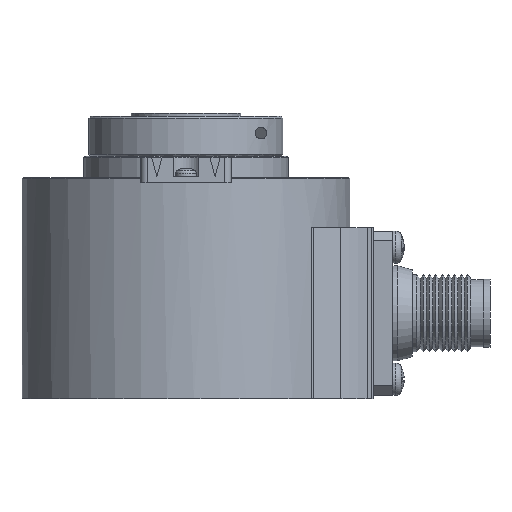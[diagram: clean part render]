
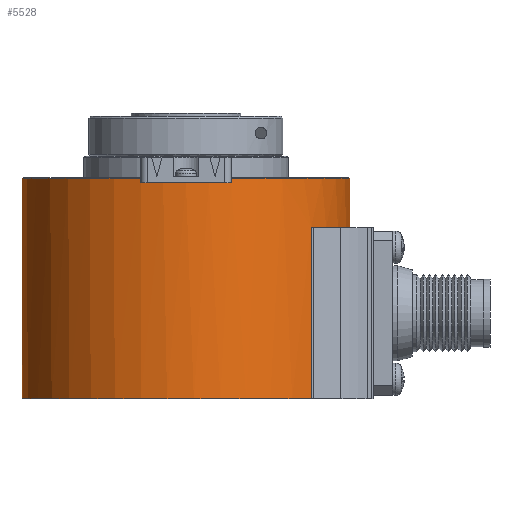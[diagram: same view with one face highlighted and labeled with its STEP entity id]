
A CAD part, left-side view. The second image highlights one B-rep face of the part: STEP entity #5528.
In plain terms, the highlighted cylindrical face has radius 25.4 mm (diameter 50.8 mm), a full revolution.
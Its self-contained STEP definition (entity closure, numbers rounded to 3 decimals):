
#4678=CARTESIAN_POINT('',(-24.415,-7.005,6.9));
#4679=VERTEX_POINT('',#4678);
#4686=CARTESIAN_POINT('',(-24.415,-7.005,7.585));
#4687=VERTEX_POINT('',#4686);
#4688=CARTESIAN_POINT('',(-24.415,-7.005,7.585));
#4689=DIRECTION('',(0.0,0.0,-1.0));
#4690=VECTOR('',#4689,0.685);
#4691=LINE('',#4688,#4690);
#4692=EDGE_CURVE('',#4687,#4679,#4691,.T.);
#4715=CARTESIAN_POINT('',(-24.415,7.005,6.9));
#4716=VERTEX_POINT('',#4715);
#4717=CARTESIAN_POINT('',(-24.415,7.005,7.585));
#4718=VERTEX_POINT('',#4717);
#4719=CARTESIAN_POINT('',(-24.415,7.005,6.9));
#4720=DIRECTION('',(0.0,0.0,1.0));
#4721=VECTOR('',#4720,0.685);
#4722=LINE('',#4719,#4721);
#4723=EDGE_CURVE('',#4716,#4718,#4722,.T.);
#4918=CARTESIAN_POINT('',(0.,0.,7.585));
#4919=DIRECTION('',(0.0,0.0,-1.0));
#4920=DIRECTION('',(-1.0,0.0,0.0));
#4921=AXIS2_PLACEMENT_3D('',#4918,#4919,#4920);
#4922=CIRCLE('',#4921,25.4);
#4923=EDGE_CURVE('',#4718,#4687,#4922,.T.);
#5206=CARTESIAN_POINT('',(-16.45,-19.354,-26.5));
#5207=VERTEX_POINT('',#5206);
#5215=CARTESIAN_POINT('',(16.45,-19.354,-26.5));
#5216=VERTEX_POINT('',#5215);
#5217=CARTESIAN_POINT('',(0.0,0.0,-26.5));
#5218=DIRECTION('',(0.0,0.0,1.0));
#5219=DIRECTION('',(-0.648,0.762,0.0));
#5220=AXIS2_PLACEMENT_3D('',#5217,#5218,#5219);
#5221=CIRCLE('',#5220,25.4);
#5222=EDGE_CURVE('',#5216,#5207,#5221,.T.);
#5455=CARTESIAN_POINT('',(16.45,-19.354,0.0));
#5456=VERTEX_POINT('',#5455);
#5457=CARTESIAN_POINT('',(16.45,-19.354,0.0));
#5458=DIRECTION('',(0.0,0.0,-1.0));
#5459=VECTOR('',#5458,26.5);
#5460=LINE('',#5457,#5459);
#5461=EDGE_CURVE('',#5456,#5216,#5460,.T.);
#5474=CARTESIAN_POINT('',(0.0,0.0,0.0));
#5475=DIRECTION('',(0.0,0.0,-1.0));
#5476=DIRECTION('',(-0.648,0.762,0.0));
#5477=AXIS2_PLACEMENT_3D('',#5474,#5475,#5476);
#5478=CYLINDRICAL_SURFACE('',#5477,25.4);
#5479=ORIENTED_EDGE('',*,*,#4692,.T.);
#5480=CARTESIAN_POINT('',(-24.416,-7.,6.9));
#5481=VERTEX_POINT('',#5480);
#5482=CARTESIAN_POINT('',(0.,0.,6.9));
#5483=DIRECTION('',(0.0,0.0,-1.0));
#5484=DIRECTION('',(-1.0,0.0,0.0));
#5485=AXIS2_PLACEMENT_3D('',#5482,#5483,#5484);
#5486=CIRCLE('',#5485,25.4);
#5487=EDGE_CURVE('',#4679,#5481,#5486,.T.);
#5488=ORIENTED_EDGE('',*,*,#5487,.T.);
#5489=CARTESIAN_POINT('',(-24.416,7.,6.9));
#5490=VERTEX_POINT('',#5489);
#5491=CARTESIAN_POINT('',(0.,0.,6.9));
#5492=DIRECTION('',(0.0,0.0,-1.0));
#5493=DIRECTION('',(-1.0,0.0,0.0));
#5494=AXIS2_PLACEMENT_3D('',#5491,#5492,#5493);
#5495=CIRCLE('',#5494,25.4);
#5496=EDGE_CURVE('',#5481,#5490,#5495,.T.);
#5497=ORIENTED_EDGE('',*,*,#5496,.T.);
#5498=CARTESIAN_POINT('',(0.,0.,6.9));
#5499=DIRECTION('',(0.0,0.0,-1.0));
#5500=DIRECTION('',(-1.0,0.0,0.0));
#5501=AXIS2_PLACEMENT_3D('',#5498,#5499,#5500);
#5502=CIRCLE('',#5501,25.4);
#5503=EDGE_CURVE('',#5490,#4716,#5502,.T.);
#5504=ORIENTED_EDGE('',*,*,#5503,.T.);
#5505=ORIENTED_EDGE('',*,*,#4723,.T.);
#5506=ORIENTED_EDGE('',*,*,#4923,.T.);
#5507=EDGE_LOOP('',(#5479,#5488,#5497,#5504,#5505,#5506));
#5508=FACE_OUTER_BOUND('',#5507,.T.);
#5509=ORIENTED_EDGE('',*,*,#5222,.T.);
#5510=CARTESIAN_POINT('',(-16.45,-19.354,0.0));
#5511=VERTEX_POINT('',#5510);
#5512=CARTESIAN_POINT('',(-16.45,-19.354,0.0));
#5513=DIRECTION('',(0.0,0.0,-1.0));
#5514=VECTOR('',#5513,26.5);
#5515=LINE('',#5512,#5514);
#5516=EDGE_CURVE('',#5511,#5207,#5515,.T.);
#5517=ORIENTED_EDGE('',*,*,#5516,.F.);
#5518=CARTESIAN_POINT('',(0.,0.0,0.));
#5519=DIRECTION('',(0.0,0.0,-1.0));
#5520=DIRECTION('',(-1.0,0.0,0.0));
#5521=AXIS2_PLACEMENT_3D('',#5518,#5519,#5520);
#5522=CIRCLE('',#5521,25.4);
#5523=EDGE_CURVE('',#5456,#5511,#5522,.T.);
#5524=ORIENTED_EDGE('',*,*,#5523,.F.);
#5525=ORIENTED_EDGE('',*,*,#5461,.T.);
#5526=EDGE_LOOP('',(#5509,#5517,#5524,#5525));
#5527=FACE_BOUND('',#5526,.T.);
#5528=ADVANCED_FACE('',(#5508,#5527),#5478,.T.);
